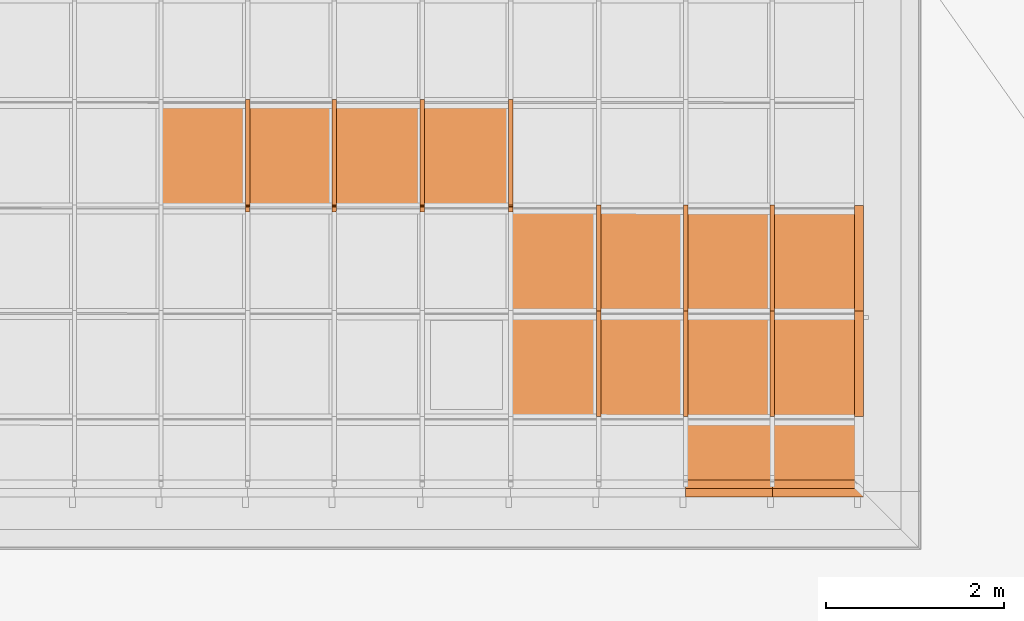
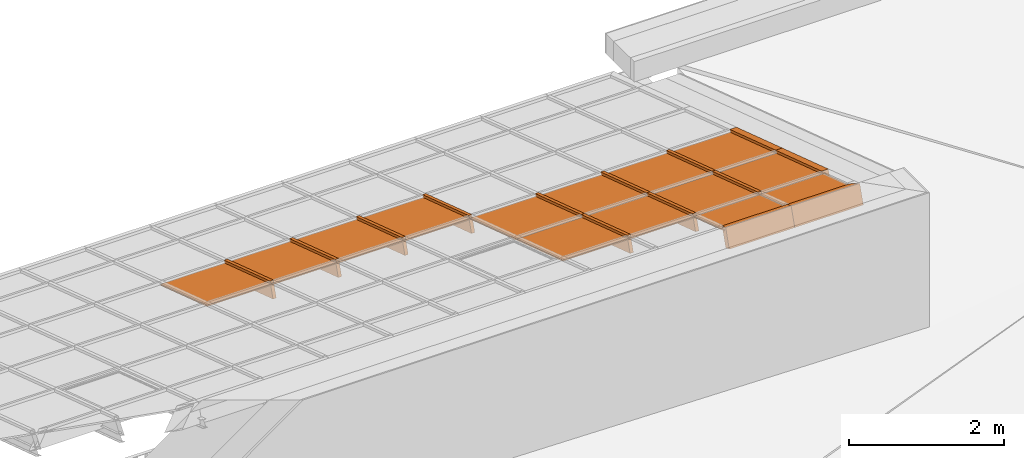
# One storey, part 38 of 47: 28 proxies, 1 element without a shape of its own.
"""IFC2X3 building model written with IfcOpenShell, lengths in millimetres."""

import ifcopenshell
import ifcopenshell.guid

model = None  # the IFC model being written
_history = None  # IfcOwnerHistory: only IFC2X3 demands one
_inside = {}  # id of a spatial element -> (the spatial element, [elements in it])
_under = {}  # id of a project, library or spatial element -> (it, [spatial elements below it])
_declared = {}  # id of a project -> (the project, [libraries it declares])
_typed = {}  # id of a type object -> (the type object, [elements of that type])
_made_of = {}  # id of a material, layer set ... -> (it, [elements and type objects made of it])


def new_model(schema):
    """Start an empty IFC model of exactly this schema.

    Asked for "IFC4X3", IfcOpenShell would pick the latest addendum, in which some entities
    have other attributes; the version numbers below select the first issue.
    IFC2X3 requires an IfcOwnerHistory on every rooted entity: one is made here for all.
    """
    global model, _history
    if schema == "IFC4X3":
        model = ifcopenshell.file(schema_version=(4, 3, 0, 0))
    else:
        model = ifcopenshell.file(schema=schema)
    _inside.clear()
    _under.clear()
    _declared.clear()
    _typed.clear()
    _made_of.clear()
    _history = None
    if model.schema == "IFC2X3":
        org = make("IfcOrganization", Name="unknown")
        user = make(
            "IfcPersonAndOrganization",
            ThePerson=make("IfcPerson", FamilyName="unknown"),
            TheOrganization=org,
        )
        app = make(
            "IfcApplication",
            ApplicationDeveloper=org,
            Version="unknown",
            ApplicationFullName="unknown",
            ApplicationIdentifier="unknown",
        )
        _history = make(
            "IfcOwnerHistory",
            OwningUser=user,
            OwningApplication=app,
            ChangeAction="ADDED",
            CreationDate=0,
        )
    return model


def make(cls, **values):
    """One entity of the class cls with the attributes given. An attribute that is None is left unset."""
    return model.create_entity(
        cls, **{name: value for name, value in values.items() if value is not None}
    )


def entity(cls, *values):
    """Any entity or typed value of the class cls, its attributes in the order of the schema. None: left unset."""
    e = model.create_entity(cls)
    for i, value in enumerate(values):
        if value is not None:
            e[i] = value
    return e


def rooted(cls, **values):
    """An entity with a GlobalId (a new one), such as an element, a storey or a relation."""
    return make(cls, GlobalId=ifcopenshell.guid.new(), OwnerHistory=_history, **values)


def si_unit(unit_type, name, prefix=None):
    """IfcSIUnit, for example si_unit("LENGTHUNIT", "METRE", prefix="MILLI")."""
    return make("IfcSIUnit", UnitType=unit_type, Prefix=prefix, Name=name)


def converted_unit(unit_type, name, factor, base, dimensions=None, offset=None):
    """IfcConversionBasedUnit, such as the inch: factor (a typed value) times the base unit."""
    return make(
        "IfcConversionBasedUnit"
        if offset is None
        else "IfcConversionBasedUnitWithOffset",
        ConversionOffset=offset,
        Dimensions=None
        if dimensions is None
        else entity("IfcDimensionalExponents", *dimensions),
        UnitType=unit_type,
        Name=name,
        ConversionFactor=make(
            "IfcMeasureWithUnit", ValueComponent=factor, UnitComponent=base
        ),
    )


def derived_unit(unit_type, elements):
    """IfcDerivedUnit: a product of units, each with its exponent."""
    return make(
        "IfcDerivedUnit",
        Elements=[
            make("IfcDerivedUnitElement", Unit=unit, Exponent=power)
            for unit, power in elements
        ],
        UnitType=unit_type,
    )


def money_unit(currency):
    """IfcMonetaryUnit."""
    return make("IfcMonetaryUnit", Currency=currency)


def assignment(units):
    """IfcUnitAssignment: the units of a project."""
    return None if units is None else make("IfcUnitAssignment", Units=units)


def point(xyz):
    """IfcCartesianPoint."""
    return None if xyz is None else make("IfcCartesianPoint", Coordinates=xyz)


def direction(xyz):
    """IfcDirection."""
    return None if xyz is None else make("IfcDirection", DirectionRatios=xyz)


def frame(location, z_axis=None, x_axis=None):
    """IfcAxis2Placement3D, a coordinate frame: its origin and axes. An axis left out is left unset."""
    return make(
        "IfcAxis2Placement3D",
        Location=point(location),
        Axis=direction(z_axis),
        RefDirection=direction(x_axis),
    )


def origin_with_axes():
    """The frame at (0, 0, 0) with the z axis (0, 0, 1) and the x axis (1, 0, 0) written out."""
    return frame((0.0, 0.0, 0.0), z_axis=(0.0, 0.0, 1.0), x_axis=(1.0, 0.0, 0.0))


def place(relative_to, where):
    """IfcLocalPlacement: puts the frame where relative to a parent placement (None: the world)."""
    return make(
        "IfcLocalPlacement", PlacementRelTo=relative_to, RelativePlacement=where
    )


def context(
    kind, dimensions, precision=None, world=None, true_north=None, identifier=None
):
    """IfcGeometricRepresentationContext, for example the 3D "Model" context."""
    return make(
        "IfcGeometricRepresentationContext",
        ContextIdentifier=identifier,
        ContextType=kind,
        CoordinateSpaceDimension=dimensions,
        Precision=precision,
        WorldCoordinateSystem=world,
        TrueNorth=true_north,
    )


def subcontext(parent, identifier, kind, view, scale=None):
    """IfcGeometricRepresentationSubContext, for example "Body" below "Model"."""
    return make(
        "IfcGeometricRepresentationSubContext",
        ContextIdentifier=identifier,
        ContextType=kind,
        ParentContext=parent,
        TargetScale=scale,
        TargetView=view,
    )


def project(units=None, contexts=None):
    """IfcProject with its units and contexts."""
    return rooted(
        "IfcProject",
        Name="project",
        RepresentationContexts=contexts,
        UnitsInContext=assignment(units),
    )


def spatial(cls, under=None, at=None, **own):
    """A site, building, storey or space (cls), placed at a placement, below another one or the project."""
    s = rooted(cls, ObjectPlacement=at, **own)
    if under is not None:
        _under.setdefault(under.id(), (under, []))[1].append(s)
    return s


def polyline(points):
    """IfcPolyline through the points."""
    return make("IfcPolyline", Points=[point(p) for p in points])


def outline(outer, holes=None, kind="AREA"):
    """IfcArbitraryClosedProfileDef: a profile drawn as a closed curve; with holes, ...WithVoids."""
    if holes is None:
        return make("IfcArbitraryClosedProfileDef", ProfileType=kind, OuterCurve=outer)
    return make(
        "IfcArbitraryProfileDefWithVoids",
        ProfileType=kind,
        OuterCurve=outer,
        InnerCurves=holes,
    )


def extrude(swept, where, along, depth):
    """IfcExtrudedAreaSolid: the profile swept, set in the frame where, extruded along a direction by depth."""
    return make(
        "IfcExtrudedAreaSolid",
        SweptArea=swept,
        Position=where,
        ExtrudedDirection=direction(along),
        Depth=depth,
    )


def clip(a, b, op="DIFFERENCE"):
    """IfcBooleanClippingResult: the solid a cut by the half space b."""
    return make(
        "IfcBooleanClippingResult", Operator=op, FirstOperand=a, SecondOperand=b
    )


def halfspace(plane, agree):
    """IfcHalfSpaceSolid: all space on one side of the plane z = 0 of the frame plane."""
    return make(
        "IfcHalfSpaceSolid",
        BaseSurface=make("IfcPlane", Position=plane),
        AgreementFlag=agree,
    )


def shape(context_of_items, identifier, shape_type, items):
    """IfcShapeRepresentation: the items that make up one representation, for example the "Body"."""
    return make(
        "IfcShapeRepresentation",
        ContextOfItems=context_of_items,
        RepresentationIdentifier=identifier,
        RepresentationType=shape_type,
        Items=items,
    )


def material(Name=None, Category=None):
    """IfcMaterial."""
    return make("IfcMaterial", Name=Name, Category=Category)


def material_list(materials):
    """IfcMaterialList."""
    return make("IfcMaterialList", Materials=materials)


def made_of(thing, what):
    """Note that an element or type object is made of a material, layer set ...; save() writes the relation."""
    if what is not None:
        _made_of.setdefault(what.id(), (what, []))[1].append(thing)
    return thing


def type_object(cls, material=None, **own):
    """A type object (cls), such as IfcWallType, which elements share."""
    return made_of(rooted(cls, **own), material)


def element(
    cls,
    number,
    at=None,
    inside=None,
    cuts=None,
    type_object=None,
    material=None,
    context=None,
    identifier="Body",
    shape_type=None,
    held_by="IfcProductDefinitionShape",
    body=None,
    shapes=None,
    **own,
):
    """One element of the class cls, such as IfcWall. Its Tag is "e" and its number.

    at: its placement. inside: the storey or other place that contains it. cuts: it is an
    opening in that element (IfcRelVoidsElement). A single representation is given by context,
    identifier, shape_type and body (its items); several are given by shapes. held_by: the class
    of the entity that holds the representations. save() writes the other relations.
    """
    e = rooted(cls, Tag="e%d" % number, ObjectPlacement=at, **own)
    if body is not None:
        shapes = [shape(context, identifier, shape_type, body)]
    if shapes is not None:
        e.Representation = make(held_by, Representations=shapes)
    if inside is not None:
        _inside.setdefault(inside.id(), (inside, []))[1].append(e)
    if cuts is not None:
        rooted(
            "IfcRelVoidsElement", RelatingBuildingElement=cuts, RelatedOpeningElement=e
        )
    if type_object is not None:
        _typed.setdefault(type_object.id(), (type_object, []))[1].append(e)
    return made_of(e, material)


def aggregate(whole, parts):
    """IfcRelAggregates: a whole, such as a stair, and the parts it consists of."""
    return rooted("IfcRelAggregates", RelatingObject=whole, RelatedObjects=parts)


def save(model, path):
    """Write the relations noted so far, then the file.

    IfcRelAggregates (storeys below a building ...), IfcRelContainedInSpatialStructure (elements
    in a storey), IfcRelDefinesByType, IfcRelAssociatesMaterial and IfcRelDeclares: one each for
    every whole, place, type object, material and project.
    """
    for whole, parts in _under.values():
        aggregate(whole, parts)
    for where, things in _inside.values():
        rooted(
            "IfcRelContainedInSpatialStructure",
            RelatedElements=things,
            RelatingStructure=where,
        )
    for kind, things in _typed.values():
        rooted("IfcRelDefinesByType", RelatedObjects=things, RelatingType=kind)
    for what, things in _made_of.values():
        rooted("IfcRelAssociatesMaterial", RelatedObjects=things, RelatingMaterial=what)
    for by, libraries in _declared.values():
        rooted("IfcRelDeclares", RelatingContext=by, RelatedDefinitions=libraries)
    model.write(path)


model = new_model("IFC2X3")

# Units and contexts
model_context = context("Model", 3, precision=1e-05, world=origin_with_axes(), true_north=direction((0.0, 1.0)))
body_context = subcontext(model_context, "Body", "Model", "MODEL_VIEW")
ifc_project = project(units=[si_unit("LENGTHUNIT", "METRE", prefix="MILLI"), si_unit("AREAUNIT", "SQUARE_METRE"), si_unit("VOLUMEUNIT", "CUBIC_METRE"), converted_unit("PLANEANGLEUNIT", "DEGREE", entity("IfcPlaneAngleMeasure", 0.0174532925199), si_unit("PLANEANGLEUNIT", "RADIAN"), dimensions=[0, 0, 0, 0, 0, 0, 0]), si_unit("SOLIDANGLEUNIT", "STERADIAN"), money_unit("EUR"), converted_unit("TIMEUNIT", "Year", entity("IfcTimeMeasure", 31556926.0), si_unit("TIMEUNIT", "SECOND"), dimensions=[0, 0, 1, 0, 0, 0, 0]), si_unit("MASSUNIT", "GRAM", prefix="KILO"), si_unit("THERMODYNAMICTEMPERATUREUNIT", "DEGREE_CELSIUS"), si_unit("LUMINOUSINTENSITYUNIT", "LUMEN"), si_unit("ENERGYUNIT", "JOULE", prefix="MEGA"), derived_unit("THERMALCONDUCTANCEUNIT", [(si_unit("POWERUNIT", "WATT"), 1), (si_unit("LENGTHUNIT", "METRE"), -1), (si_unit("THERMODYNAMICTEMPERATUREUNIT", "KELVIN"), -1)]), derived_unit("SPECIFICHEATCAPACITYUNIT", [(si_unit("ENERGYUNIT", "JOULE"), 1), (si_unit("MASSUNIT", "GRAM", prefix="KILO"), -1), (si_unit("THERMODYNAMICTEMPERATUREUNIT", "KELVIN"), -1)]), derived_unit("MASSDENSITYUNIT", [(si_unit("MASSUNIT", "GRAM", prefix="KILO"), 1), (si_unit("VOLUMEUNIT", "CUBIC_METRE"), -1)])], contexts=[model_context])

# Site, building, storey
site_placement = place(None, origin_with_axes())
site = spatial("IfcSite", under=ifc_project, at=site_placement, Name="Site", CompositionType="ELEMENT")
building_placement = place(site_placement, origin_with_axes())
building = spatial("IfcBuilding", under=site, at=building_placement, Name="Building", CompositionType="ELEMENT")
storey_placement = place(building_placement, frame((0.0, 0.0, 6000.0), z_axis=(0.0, 0.0, 1.0), x_axis=(1.0, 0.0, 0.0)))
storey = spatial("IfcBuildingStorey", under=building, at=storey_placement, Name="KATUSEPLAAN", CompositionType="ELEMENT", Elevation=6000.0)

# Curtain wall, proxies
curtain_wall_type = type_object("IfcCurtainWallType", Name="KK-2", PredefinedType="NOTDEFINED")
curtain_wall_placement = place(storey_placement, frame((71638.1505463, 41358.6055567, 722.550081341), z_axis=(0.0, 0.0, 1.0), x_axis=(1.0, 0.0, 0.0)))
curtain_wall = element("IfcCurtainWall", 1, at=curtain_wall_placement, inside=storey, type_object=curtain_wall_type, Name="Talveaja klaaskatus")
ifc_material_1 = material(Name="Klaas")
building_element_proxy_type_1 = type_object("IfcBuildingElementProxyType", Name="Panel-Dist-144", PredefinedType="NOTDEFINED")
proxy_1_placement = place(curtain_wall_placement, frame((14729.9937576, 2253.72911431, 1224.98126514), z_axis=(0.0, 0.0, 1.0), x_axis=(-0.999995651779, 0.00294896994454, 0.0)))
proxy_1 = element("IfcBuildingElementProxy", 2, at=proxy_1_placement, type_object=building_element_proxy_type_1, material=ifc_material_1, Name="Klaas;  Objekti nimi: Built-in CW Panel", context=body_context, shape_type="SweptSolid", body=[
    extrude(outline(polyline([(486.233087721, -631.364698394), (486.247105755, -626.364719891), (491.247084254, -626.37871911), (494.749052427, 623.616376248), (489.749073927, 623.630375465), (489.763073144, 628.630353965), (-486.233095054, 631.364698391), (-486.247094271, 626.364719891), (-491.247091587, 626.378719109), (-494.749059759, -623.616376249), (-489.74908126, -623.630375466), (-489.763080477, -628.630353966), (486.233087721, -631.364698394)])), frame((0.0, -3.12191252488, 9.50019274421), z_axis=(0.0, 0.312191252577, -0.950019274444), x_axis=(1.0, 0.0, 0.0)), (0.0, 0.0, 1.0), 20.0000000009),
])
building_element_proxy_type_2 = type_object("IfcBuildingElementProxyType", Name="Panel-Main-207", PredefinedType="NOTDEFINED")
proxy_2_placement = place(curtain_wall_placement, frame((15704.4933446, -4.5137158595, 1966.12772959), z_axis=(0.0, 0.0, 1.0), x_axis=(-0.999995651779, 0.0029489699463, 0.0)))
proxy_2 = element("IfcBuildingElementProxy", 3, at=proxy_2_placement, type_object=building_element_proxy_type_2, material=ifc_material_1, Name="Klaas;  Objekti nimi: Built-in CW Panel", context=body_context, shape_type="SweptSolid", body=[
    extrude(outline(polyline([(490.647769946, -304.883100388), (492.903773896, 500.374719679), (487.903793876, 500.388724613), (487.91779881, 505.388704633), (-485.078383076, 508.114638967), (-485.09238801, 503.114658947), (-465.092467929, 503.058624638), (-467.29243757, -282.199275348), (485.703824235, -284.869175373), (485.647789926, -304.869095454), (490.647769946, -304.883100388)])), frame((0.0, -3.12191252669, 9.50019274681), z_axis=(0.0, 0.312191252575, -0.950019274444), x_axis=(1.0, 0.0, 0.0)), (0.0, 0.0, 1.0), 20.0000000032),
])
building_element_proxy_type_3 = type_object("IfcBuildingElementProxyType", Name="Panel-Main-155", PredefinedType="NOTDEFINED")
proxy_3_placement = place(curtain_wall_placement, frame((12769.4945884, 1066.76799597, 1616.93350878), z_axis=(0.0, 0.0, 1.0), x_axis=(-0.999995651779, 0.00294896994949, 0.0)))
proxy_3 = element("IfcBuildingElementProxy", 4, at=proxy_3_placement, type_object=building_element_proxy_type_3, material=ifc_material_1, Name="Klaas;  Objekti nimi: Built-in CW Panel", context=body_context, shape_type="SweptSolid", body=[
    extrude(outline(polyline([(494.73307187, -631.388511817), (494.747071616, -626.388532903), (499.747050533, -626.402532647), (503.249019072, 623.592554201), (498.249040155, 623.606553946), (498.2630399, 628.606551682), (-494.733059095, 631.388511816), (-494.74705884, 626.388532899), (-499.747037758, 626.402532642), (-503.249006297, -623.592554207), (-498.249046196, -623.60655395), (-498.263045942, -628.606532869), (494.73307187, -631.388511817)])), frame((0.0, -3.12191252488, 9.50019274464), z_axis=(0.0, 0.312191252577, -0.950019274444), x_axis=(1.0, 0.0, 0.0)), (0.0, 0.0, 1.0), 20.0000000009),
])
building_element_proxy_type_4 = type_object("IfcBuildingElementProxyType", Name="Panel-Main-113", PredefinedType="NOTDEFINED")
proxy_4_placement = place(curtain_wall_placement, frame((13753.9941712, 2254.00963179, 1225.83490266), z_axis=(0.0, 0.0, 1.0), x_axis=(-0.999995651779, 0.00294896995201, 0.0)))
proxy_4 = element("IfcBuildingElementProxy", 5, at=proxy_4_placement, type_object=building_element_proxy_type_4, material=ifc_material_1, Name="Klaas;  Objekti nimi: Built-in CW Panel", context=body_context, shape_type="SweptSolid", body=[
    extrude(outline(polyline([(486.233068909, -631.364698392), (486.247086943, -626.364701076), (491.247084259, -626.378719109), (494.749052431, 623.616357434), (489.749073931, 623.630375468), (489.763073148, 628.630353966), (-486.23309505, 631.364698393), (-486.247113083, 626.364719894), (-491.247091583, 626.378719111), (-494.749059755, -623.61635743), (-489.749081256, -623.630375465), (-489.763080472, -628.630353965), (486.233068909, -631.364698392)])), frame((0.0, -3.12191252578, 9.50019274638), z_axis=(0.0, 0.312191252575, -0.950019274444), x_axis=(1.0, 0.0, 0.0)), (0.0, 0.0, 1.0), 20.0000000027),
])
building_element_proxy_type_5 = type_object("IfcBuildingElementProxyType", Name="Panel-Main-143", PredefinedType="NOTDEFINED")
proxy_5_placement = place(curtain_wall_placement, frame((8827.49625898, 3442.9501803, 839.906226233), z_axis=(0.0, 0.0, 1.0), x_axis=(-0.999995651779, 0.00294896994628, 0.0)))
proxy_5 = element("IfcBuildingElementProxy", 6, at=proxy_5_placement, type_object=building_element_proxy_type_5, material=ifc_material_1, Name="Klaas;  Objekti nimi: Built-in CW Panel", context=body_context, shape_type="SweptSolid", body=[
    extrude(outline(polyline([(484.733112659, -631.360496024), (484.747111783, -626.360513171), (489.747075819, -626.374531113), (493.249058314, 623.620579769), (488.249075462, 623.634578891), (488.263093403, 628.634561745), (-484.733080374, 631.360496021), (-484.747098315, 626.360513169), (-489.747081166, 626.374512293), (-493.249044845, -623.620579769), (-488.249061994, -623.634578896), (-488.263079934, -628.634561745), (484.733112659, -631.360496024)])), frame((0.0, -3.12191252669, 9.50019274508), z_axis=(0.0, 0.312191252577, -0.950019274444), x_axis=(1.0, 0.0, 0.0)), (0.0, 0.0, 1.0), 20.0000000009),
])
building_element_proxy_type_6 = type_object("IfcBuildingElementProxyType", Name="Panel-Dist-175", PredefinedType="NOTDEFINED")
proxy_6_placement = place(curtain_wall_placement, frame((9800.49584663, 3442.67052507, 839.0552126), z_axis=(0.0, 0.0, 1.0), x_axis=(-0.999995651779, 0.00294896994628, 0.0)))
proxy_6 = element("IfcBuildingElementProxy", 7, at=proxy_6_placement, type_object=building_element_proxy_type_6, material=ifc_material_1, Name="Klaas;  Objekti nimi: Built-in CW Panel", context=body_context, shape_type="SweptSolid", body=[
    extrude(outline(polyline([(484.733112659, -631.360496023), (484.747111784, -626.360513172), (489.74707582, -626.374531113), (493.249058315, 623.620579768), (488.249075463, 623.634578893), (488.263093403, 628.634561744), (-484.733080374, 631.360496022), (-484.747098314, 626.36051317), (-489.747081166, 626.374512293), (-493.249044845, -623.620579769), (-488.249061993, -623.634578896), (-488.263079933, -628.634561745), (484.733112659, -631.360496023)])), frame((1.13686837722e-10, -3.12191252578, 9.50019274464), z_axis=(0.0, 0.312191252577, -0.950019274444), x_axis=(1.0, 0.0, 0.0)), (0.0, 0.0, 1.0), 20.0000000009),
])
building_element_proxy_type_7 = type_object("IfcBuildingElementProxyType", Name="Panel-Main-144", PredefinedType="NOTDEFINED")
proxy_7_placement = place(curtain_wall_placement, frame((10783.49543, 3442.38799568, 838.195452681), z_axis=(0.0, 0.0, 1.0), x_axis=(-0.999995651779, 0.00294896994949, 0.0)))
proxy_7 = element("IfcBuildingElementProxy", 8, at=proxy_7_placement, type_object=building_element_proxy_type_7, material=ifc_material_1, Name="Klaas;  Objekti nimi: Built-in CW Panel", context=body_context, shape_type="SweptSolid", body=[
    extrude(outline(polyline([(494.733053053, -631.388511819), (494.747071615, -626.388532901), (499.747050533, -626.402532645), (503.249019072, 623.592554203), (498.249040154, 623.60655395), (498.2630399, 628.606551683), (-494.733077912, 631.388511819), (-494.747077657, 626.3885329), (-499.747037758, 626.402532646), (-503.249025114, -623.592554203), (-498.249046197, -623.606553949), (-498.263045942, -628.606551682), (494.733053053, -631.388511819)])), frame((0.0, -3.12191252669, 9.50019274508), z_axis=(0.0, 0.312191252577, -0.950019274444), x_axis=(1.0, 0.0, 0.0)), (0.0, 0.0, 1.0), 20.0000000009),
])
building_element_proxy_type_8 = type_object("IfcBuildingElementProxyType", Name="Panel-Dist-176", PredefinedType="NOTDEFINED")
proxy_8_placement = place(curtain_wall_placement, frame((11776.4950092, 3442.10259214, 837.326946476), z_axis=(0.0, 0.0, 1.0), x_axis=(-0.999995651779, 0.00294896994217, 0.0)))
proxy_8 = element("IfcBuildingElementProxy", 9, at=proxy_8_placement, type_object=building_element_proxy_type_8, material=ifc_material_1, Name="Klaas;  Objekti nimi: Built-in CW Panel", context=body_context, shape_type="SweptSolid", body=[
    extrude(outline(polyline([(494.733053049, -631.388511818), (494.747071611, -626.3885329), (499.747050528, -626.402532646), (503.249019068, 623.592554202), (498.24904015, 623.606553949), (498.263039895, 628.606551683), (-494.733077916, 631.388511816), (-494.747077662, 626.388532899), (-499.747037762, 626.402532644), (-503.249025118, -623.592554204), (-498.249046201, -623.606553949), (-498.263045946, -628.606551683), (494.733053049, -631.388511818)])), frame((0.0, -3.12191252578, 9.50019274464), z_axis=(0.0, 0.312191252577, -0.950019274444), x_axis=(1.0, 0.0, 0.0)), (0.0, 0.0, 1.0), 20.0000000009),
])
building_element_proxy_type_9 = type_object("IfcBuildingElementProxyType", Name="Panel-Dist-155", PredefinedType="NOTDEFINED")
proxy_9_placement = place(curtain_wall_placement, frame((12769.4945884, 2254.29259229, 1226.69597452), z_axis=(0.0, 0.0, 1.0), x_axis=(-0.999995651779, 0.00294896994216, 0.0)))
proxy_9 = element("IfcBuildingElementProxy", 10, at=proxy_9_placement, type_object=building_element_proxy_type_9, material=ifc_material_1, Name="Klaas;  Objekti nimi: Built-in CW Panel", context=body_context, shape_type="SweptSolid", body=[
    extrude(outline(polyline([(494.733053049, -631.388511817), (494.747071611, -626.388532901), (499.747050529, -626.402532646), (503.249019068, 623.592554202), (498.249040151, 623.606553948), (498.263039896, 628.606551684), (-494.733077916, 631.388511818), (-494.747077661, 626.3885329), (-499.747037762, 626.402532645), (-503.249025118, -623.592554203), (-498.249046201, -623.606553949), (-498.263045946, -628.606551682), (494.733053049, -631.388511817)])), frame((1.13686837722e-10, -3.12191252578, 9.50019274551), z_axis=(0.0, 0.312191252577, -0.950019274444), x_axis=(1.0, 0.0, 0.0)), (0.0, 0.0, 1.0), 20.0000000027),
])
building_element_proxy_type_10 = type_object("IfcBuildingElementProxyType", Name="Panel-Main-114", PredefinedType="NOTDEFINED")
proxy_10_placement = place(curtain_wall_placement, frame((15704.4933446, 2253.44902796, 1224.12893957), z_axis=(0.0, 0.0, 1.0), x_axis=(-0.999995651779, 0.00294896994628, 0.0)))
proxy_10 = element("IfcBuildingElementProxy", 11, at=proxy_10_placement, type_object=building_element_proxy_type_10, material=ifc_material_1, Name="Klaas;  Objekti nimi: Built-in CW Panel", context=body_context, shape_type="SweptSolid", body=[
    extrude(outline(polyline([(484.733112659, -631.360496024), (484.747111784, -626.360513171), (489.747075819, -626.374531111), (493.249058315, 623.620579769), (488.249094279, 623.634578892), (488.263093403, 628.634561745), (-484.733080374, 631.360496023), (-484.747098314, 626.360513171), (-464.747166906, 626.304479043), (-468.249130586, -623.690613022), (-488.249061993, -623.634578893), (-488.263079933, -628.634561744), (484.733112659, -631.360496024)])), frame((0.0, -3.12191252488, 9.50019274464), z_axis=(0.0, 0.312191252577, -0.950019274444), x_axis=(1.0, 0.0, 0.0)), (0.0, 0.0, 1.0), 20.0000000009),
])
building_element_proxy_type_11 = type_object("IfcBuildingElementProxyType", Name="Panel-Main-153", PredefinedType="NOTDEFINED")
proxy_11_placement = place(curtain_wall_placement, frame((14729.9937576, 1066.20451799, 1615.2187994), z_axis=(0.0, 0.0, 1.0), x_axis=(-0.999995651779, 0.00294896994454, 0.0)))
proxy_11 = element("IfcBuildingElementProxy", 12, at=proxy_11_placement, type_object=building_element_proxy_type_11, material=ifc_material_1, Name="Klaas;  Objekti nimi: Built-in CW Panel", context=body_context, shape_type="SweptSolid", body=[
    extrude(outline(polyline([(486.233068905, -631.364698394), (486.247086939, -626.364701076), (491.247084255, -626.378719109), (494.749052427, 623.616357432), (489.749073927, 623.630375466), (489.763073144, 628.630353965), (-486.233095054, 631.364698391), (-486.247113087, 626.364719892), (-491.247091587, 626.378719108), (-494.749059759, -623.616357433), (-489.74908126, -623.630375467), (-489.763080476, -628.630353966), (486.233068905, -631.364698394)])), frame((0.0, -3.12191252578, 9.50019274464), z_axis=(0.0, 0.312191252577, -0.950019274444), x_axis=(1.0, 0.0, 0.0)), (0.0, 0.0, 1.0), 20.0000000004),
])
building_element_proxy_type_12 = type_object("IfcBuildingElementProxyType", Name="Panel-Main-154", PredefinedType="NOTDEFINED")
proxy_12_placement = place(curtain_wall_placement, frame((13753.9941712, 1066.48503547, 1616.07243692), z_axis=(0.0, 0.0, 1.0), x_axis=(-0.999995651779, 0.00294896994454, 0.0)))
proxy_12 = element("IfcBuildingElementProxy", 13, at=proxy_12_placement, type_object=building_element_proxy_type_12, material=ifc_material_1, Name="Klaas;  Objekti nimi: Built-in CW Panel", context=body_context, shape_type="SweptSolid", body=[
    extrude(outline(polyline([(486.233087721, -631.364698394), (486.247105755, -626.364719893), (491.247084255, -626.37871911), (494.749052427, 623.616376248), (489.749073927, 623.630375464), (489.763073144, 628.630353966), (-486.233095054, 631.364698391), (-486.247094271, 626.364719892), (-491.247091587, 626.378719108), (-494.749059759, -623.61637625), (-489.74908126, -623.630375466), (-489.763080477, -628.630353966), (486.233087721, -631.364698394)])), frame((1.70530256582e-10, -3.12191252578, 9.50019274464), z_axis=(0.0, 0.312191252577, -0.950019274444), x_axis=(1.0, 0.0, 0.0)), (0.0, 0.0, 1.0), 20.0000000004),
])
building_element_proxy_type_13 = type_object("IfcBuildingElementProxyType", Name="Panel-Main-152", PredefinedType="NOTDEFINED")
proxy_13_placement = place(curtain_wall_placement, frame((15704.4933446, 1065.92443164, 1614.36647382), z_axis=(0.0, 0.0, 1.0), x_axis=(-0.999995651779, 0.00294896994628, 0.0)))
proxy_13 = element("IfcBuildingElementProxy", 14, at=proxy_13_placement, type_object=building_element_proxy_type_13, material=ifc_material_1, Name="Klaas;  Objekti nimi: Built-in CW Panel", context=body_context, shape_type="SweptSolid", body=[
    extrude(outline(polyline([(484.733112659, -631.360496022), (484.747111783, -626.360513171), (489.747075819, -626.374531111), (493.249058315, 623.620579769), (488.249094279, 623.634578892), (488.263093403, 628.634561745), (-484.733080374, 631.360496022), (-484.747098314, 626.36051317), (-464.747166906, 626.304479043), (-468.249130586, -623.690613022), (-488.249061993, -623.634578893), (-488.263079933, -628.634561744), (484.733112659, -631.360496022)])), frame((0.0, -3.12191252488, 9.50019274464), z_axis=(0.0, 0.312191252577, -0.950019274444), x_axis=(1.0, 0.0, 0.0)), (0.0, 0.0, 1.0), 20.0000000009),
])
building_element_proxy_type_14 = type_object("IfcBuildingElementProxyType", Name="Panel-Main-208", PredefinedType="NOTDEFINED")
proxy_14_placement = place(curtain_wall_placement, frame((14729.9937576, -4.23362950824, 1966.98005516), z_axis=(0.0, 0.0, 1.0), x_axis=(-0.999995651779, 0.00294896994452, 0.0)))
proxy_14 = element("IfcBuildingElementProxy", 15, at=proxy_14_placement, type_object=building_element_proxy_type_14, material=ifc_material_1, Name="Klaas;  Objekti nimi: Built-in CW Panel", context=body_context, shape_type="SweptSolid", body=[
    extrude(outline(polyline([(492.147770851, -304.887314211), (494.403768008, 500.370517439), (489.403779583, 500.384507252), (489.417784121, 505.384495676), (-486.578389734, 508.118841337), (-486.592394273, 503.118852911), (-491.592367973, 503.132872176), (-493.84836513, -302.124944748), (-488.84839143, -302.138964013), (-488.79235855, -282.139025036), (487.203815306, -284.873370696), (487.147782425, -304.873294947), (492.147770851, -304.887314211)])), frame((0.0, -3.12191252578, 9.50019274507), z_axis=(0.0, 0.312191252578, -0.950019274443), x_axis=(1.0, 0.0, 0.0)), (0.0, 0.0, 1.0), 20.0000000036),
])
ifc_material_2 = material(Name="Alumiinium (1)")
ifc_material_list = material_list([ifc_material_2, ifc_material_2])
building_element_proxy_type_15 = type_object("IfcBuildingElementProxyType", Name="Frame-Mll-606", PredefinedType="NOTDEFINED")
proxy_15_placement = place(curtain_wall_placement, frame((14241.9939644, 2847.6316712, 1030.28931678), z_axis=(0.0, -0.950019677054, 0.312190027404), x_axis=(-0.999999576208, 0.000287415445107, 0.000874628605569)))
proxy_15 = element("IfcBuildingElementProxy", 16, at=proxy_15_placement, type_object=building_element_proxy_type_15, material=ifc_material_list, Name="Alumiinium (1);  Objekti nimi: Frame 22", context=body_context, shape_type="SweptSolid", body=[
    extrude(outline(polyline([(25.0091958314, 9.97697969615), (25.1841179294, 199.976899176), (-24.8158608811, 200.022931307), (-24.9907829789, 10.0230118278), (25.0091958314, 9.97697969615)])), frame((0.0, 0.0, -1.81898940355e-09), z_axis=(0.0, 0.0, 1.0), x_axis=(0.999999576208, 0.000920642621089, 0.0)), (0.0, 0.0, 1.0), 1250.0),
    extrude(outline(polyline([(-25.0091958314, -9.9769796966), (-25.0460215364, -49.9769627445), (24.9539572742, -50.0229948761), (24.9907829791, -10.0230118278), (-25.0091958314, -9.9769796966)])), frame((0.0, 0.0, -1.81898940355e-09), z_axis=(0.0, 0.0, 1.0), x_axis=(0.999999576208, 0.000920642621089, 0.0)), (0.0, 0.0, 1.0), 1250.0),
])
building_element_proxy_type_16 = type_object("IfcBuildingElementProxyType", Name="Frame-Mll-074", PredefinedType="NOTDEFINED")
proxy_16_placement = place(curtain_wall_placement, frame((15217.9935507, 1659.82655741, 1419.67321351), z_axis=(0.0, -0.950019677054, 0.312190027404), x_axis=(-0.999999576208, 0.000287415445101, 0.000874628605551)))
proxy_16 = element("IfcBuildingElementProxy", 17, at=proxy_16_placement, type_object=building_element_proxy_type_16, material=ifc_material_list, Name="Alumiinium (1);  Objekti nimi: Frame 22", context=body_context, shape_type="SweptSolid", body=[
    extrude(outline(polyline([(25.0091958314, 9.97697969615), (25.1841179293, 199.976899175), (-24.8158608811, 200.022931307), (-24.9907829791, 10.0230118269), (25.0091958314, 9.97697969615)])), frame((0.0, 0.0, 0.0), z_axis=(0.0, 0.0, 1.0), x_axis=(0.999999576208, 0.00092064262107, 0.0)), (0.0, 0.0, 1.0), 1250.0),
    extrude(outline(polyline([(-25.0091958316, -9.97697969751), (-25.0460215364, -49.9769627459), (24.9539572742, -50.0229948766), (24.9907829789, -10.0230118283), (-25.0091958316, -9.97697969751)])), frame((0.0, -4.54747350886e-10, -9.09494701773e-10), z_axis=(0.0, 0.0, 1.0), x_axis=(0.999999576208, 0.00092064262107, 0.0)), (0.0, 0.0, 1.0), 1250.0),
])
building_element_proxy_type_17 = type_object("IfcBuildingElementProxyType", Name="Frame-Mll-607", PredefinedType="NOTDEFINED")
proxy_17_placement = place(curtain_wall_placement, frame((15217.9935507, 2847.35115373, 1029.43567926), z_axis=(0.0, -0.950019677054, 0.312190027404), x_axis=(-0.999999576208, 0.000287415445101, 0.000874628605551)))
proxy_17 = element("IfcBuildingElementProxy", 18, at=proxy_17_placement, type_object=building_element_proxy_type_17, material=ifc_material_list, Name="Alumiinium (1);  Objekti nimi: Frame 22", context=body_context, shape_type="SweptSolid", body=[
    extrude(outline(polyline([(25.0091958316, 9.9769796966), (25.1841179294, 199.976899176), (-24.8158608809, 200.022931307), (-24.9907829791, 10.0230118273), (25.0091958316, 9.9769796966)])), frame((0.0, 0.0, 0.0), z_axis=(0.0, 0.0, 1.0), x_axis=(0.999999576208, 0.00092064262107, 0.0)), (0.0, 0.0, 1.0), 1250.0),
    extrude(outline(polyline([(-25.0091958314, -9.9769796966), (-25.0460215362, -49.9769627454), (24.9539572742, -50.0229948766), (24.9907829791, -10.0230118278), (-25.0091958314, -9.9769796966)])), frame((0.0, 0.0, 0.0), z_axis=(0.0, 0.0, 1.0), x_axis=(0.999999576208, 0.00092064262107, 0.0)), (0.0, 0.0, 1.0), 1250.0),
])
building_element_proxy_type_18 = type_object("IfcBuildingElementProxyType", Name="Frame-Mll-256", PredefinedType="NOTDEFINED")
proxy_18_placement = place(curtain_wall_placement, frame((9313.99605281, 4036.57265084, 644.361952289), z_axis=(0.0, -0.950019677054, 0.312190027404), x_axis=(-0.999999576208, 0.000287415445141, 0.000874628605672)))
proxy_18 = element("IfcBuildingElementProxy", 19, at=proxy_18_placement, type_object=building_element_proxy_type_18, material=ifc_material_list, Name="Alumiinium (1);  Objekti nimi: Frame 22", context=body_context, shape_type="SweptSolid", body=[
    extrude(outline(polyline([(25.0091958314, 9.9769796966), (25.1841179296, 199.976899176), (-24.8158608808, 200.022931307), (-24.9907829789, 10.0230118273), (25.0091958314, 9.9769796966)])), frame((0.0, -4.54747350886e-10, -1.81898940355e-09), z_axis=(0.0, 0.0, 1.0), x_axis=(0.999999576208, 0.000920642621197, 0.0)), (0.0, 0.0, 1.0), 1250.0),
    extrude(outline(polyline([(-25.0091958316, -9.97697969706), (-25.0460215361, -49.9769627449), (24.9539572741, -50.0229948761), (24.9907829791, -10.0230118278), (-25.0091958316, -9.97697969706)])), frame((0.0, 0.0, -9.09494701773e-10), z_axis=(0.0, 0.0, 1.0), x_axis=(0.999999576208, 0.000920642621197, 0.0)), (0.0, 0.0, 1.0), 1250.0),
])
building_element_proxy_type_19 = type_object("IfcBuildingElementProxyType", Name="Frame-Mll-257", PredefinedType="NOTDEFINED")
proxy_19_placement = place(curtain_wall_placement, frame((10286.9956405, 4036.29299561, 643.510938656), z_axis=(0.0, -0.950019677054, 0.312190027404), x_axis=(-0.999999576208, 0.000287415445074, 0.000874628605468)))
proxy_19 = element("IfcBuildingElementProxy", 20, at=proxy_19_placement, type_object=building_element_proxy_type_19, material=ifc_material_list, Name="Alumiinium (1);  Objekti nimi: Frame 22", context=body_context, shape_type="SweptSolid", body=[
    extrude(outline(polyline([(25.0091958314, 9.9769796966), (25.1841179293, 199.976899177), (-24.8158608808, 200.022931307), (-24.990782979, 10.0230118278), (25.0091958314, 9.9769796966)])), frame((0.0, 0.0, 0.0), z_axis=(0.0, 0.0, 1.0), x_axis=(0.999999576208, 0.000920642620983, 0.0)), (0.0, 0.0, 1.0), 1250.0),
    extrude(outline(polyline([(-25.0091958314, -9.97697969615), (-25.0460215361, -49.9769627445), (24.9539572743, -50.0229948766), (24.9907829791, -10.0230118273), (-25.0091958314, -9.97697969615)])), frame((0.0, 0.0, 0.0), z_axis=(0.0, 0.0, 1.0), x_axis=(0.999999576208, 0.000920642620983, 0.0)), (0.0, 0.0, 1.0), 1250.0),
])
building_element_proxy_type_20 = type_object("IfcBuildingElementProxyType", Name="Frame-Mll-258", PredefinedType="NOTDEFINED")
proxy_20_placement = place(curtain_wall_placement, frame((11279.9952196, 4036.00759207, 642.642432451), z_axis=(0.0, -0.950019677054, 0.312190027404), x_axis=(-0.999999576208, 0.000287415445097, 0.000874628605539)))
proxy_20 = element("IfcBuildingElementProxy", 21, at=proxy_20_placement, type_object=building_element_proxy_type_20, material=ifc_material_list, Name="Alumiinium (1);  Objekti nimi: Frame 22", context=body_context, shape_type="SweptSolid", body=[
    extrude(outline(polyline([(25.0091958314, 9.9769796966), (25.1841179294, 199.976899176), (-24.8158608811, 200.022931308), (-24.990782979, 10.0230118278), (25.0091958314, 9.9769796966)])), frame((0.0, 0.0, 0.0), z_axis=(0.0, 0.0, 1.0), x_axis=(0.999999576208, 0.000920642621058, 0.0)), (0.0, 0.0, 1.0), 1250.0),
    extrude(outline(polyline([(-25.0091958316, -9.9769796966), (-25.0460215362, -49.9769627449), (24.9539572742, -50.0229948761), (24.9907829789, -10.0230118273), (-25.0091958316, -9.9769796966)])), frame((0.0, 0.0, 0.0), z_axis=(0.0, 0.0, 1.0), x_axis=(0.999999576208, 0.000920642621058, 0.0)), (0.0, 0.0, 1.0), 1250.0),
])
building_element_proxy_type_21 = type_object("IfcBuildingElementProxyType", Name="Frame-Mll-259", PredefinedType="NOTDEFINED")
proxy_21_placement = place(curtain_wall_placement, frame((12272.9947988, 4035.72218854, 641.773926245), z_axis=(0.0, -0.950019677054, 0.312190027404), x_axis=(-0.999999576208, 0.000287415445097, 0.000874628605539)))
proxy_21 = element("IfcBuildingElementProxy", 22, at=proxy_21_placement, type_object=building_element_proxy_type_21, material=ifc_material_list, Name="Alumiinium (1);  Objekti nimi: Frame 22", context=body_context, shape_type="SweptSolid", body=[
    extrude(outline(polyline([(25.0091958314, 9.9769796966), (25.1841179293, 199.976899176), (-24.8158608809, 200.022931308), (-24.9907829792, 10.0230118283), (25.0091958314, 9.9769796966)])), frame((0.0, 0.0, 0.0), z_axis=(0.0, 0.0, 1.0), x_axis=(0.999999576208, 0.000920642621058, 0.0)), (0.0, 0.0, 1.0), 1250.0),
    extrude(outline(polyline([(-25.0091958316, -9.9769796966), (-25.0460215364, -49.9769627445), (24.9539572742, -50.0229948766), (24.9907829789, -10.0230118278), (-25.0091958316, -9.9769796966)])), frame((0.0, 0.0, 0.0), z_axis=(0.0, 0.0, 1.0), x_axis=(0.999999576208, 0.000920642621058, 0.0)), (0.0, 0.0, 1.0), 1250.0),
])
building_element_proxy_type_22 = type_object("IfcBuildingElementProxyType", Name="Frame-Mll-605", PredefinedType="NOTDEFINED")
proxy_22_placement = place(curtain_wall_placement, frame((13265.994378, 2847.91218869, 1031.14295429), z_axis=(0.0, -0.950019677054, 0.312190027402), x_axis=(-0.999999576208, 0.000287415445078, 0.000874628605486)))
proxy_22 = element("IfcBuildingElementProxy", 23, at=proxy_22_placement, type_object=building_element_proxy_type_22, material=ifc_material_list, Name="Alumiinium (1);  Objekti nimi: Frame 22", context=body_context, shape_type="SweptSolid", body=[
    extrude(outline(polyline([(25.0091958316, 9.9769796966), (25.1841179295, 199.976899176), (-24.8158608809, 200.022931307), (-24.9907829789, 10.0230118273), (25.0091958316, 9.9769796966)])), frame((0.0, 0.0, -1.81898940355e-09), z_axis=(0.0, 0.0, 1.0), x_axis=(0.999999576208, 0.000920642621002, 0.0)), (0.0, 0.0, 1.0), 1250.00000001),
    extrude(outline(polyline([(-25.0091958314, -9.97697969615), (-25.0460215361, -49.9769627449), (24.9539572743, -50.0229948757), (24.990782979, -10.0230118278), (-25.0091958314, -9.97697969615)])), frame((0.0, 0.0, -1.81898940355e-09), z_axis=(0.0, 0.0, 1.0), x_axis=(0.999999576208, 0.000920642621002, 0.0)), (0.0, 0.0, 1.0), 1250.00000001),
])
building_element_proxy_type_23 = type_object("IfcBuildingElementProxyType", Name="Frame-Mll-072", PredefinedType="NOTDEFINED")
proxy_23_placement = place(curtain_wall_placement, frame((13265.994378, 1660.38759236, 1421.38048855), z_axis=(0.0, -0.950019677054, 0.312190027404), x_axis=(-0.999999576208, 0.00028741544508, 0.000874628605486)))
proxy_23 = element("IfcBuildingElementProxy", 24, at=proxy_23_placement, type_object=building_element_proxy_type_23, material=ifc_material_list, Name="Alumiinium (1);  Objekti nimi: Frame 22", context=body_context, shape_type="SweptSolid", body=[
    extrude(outline(polyline([(25.0091958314, 9.97697969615), (25.1841179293, 199.976899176), (-24.8158608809, 200.022931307), (-24.9907829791, 10.0230118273), (25.0091958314, 9.97697969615)])), frame((0.0, 0.0, -9.09494701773e-10), z_axis=(0.0, 0.0, 1.0), x_axis=(0.999999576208, 0.000920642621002, 0.0)), (0.0, 0.0, 1.0), 1250.0),
    extrude(outline(polyline([(-25.0091958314, -9.97697969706), (-25.0460215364, -49.9769627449), (24.9539572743, -50.0229948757), (24.9907829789, -10.0230118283), (-25.0091958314, -9.97697969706)])), frame((0.0, 4.54747350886e-10, -1.81898940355e-09), z_axis=(0.0, 0.0, 1.0), x_axis=(0.999999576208, 0.000920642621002, 0.0)), (0.0, 0.0, 1.0), 1250.0),
])
building_element_proxy_type_24 = type_object("IfcBuildingElementProxyType", Name="Frame-Bnd-636", PredefinedType="NOTDEFINED")
proxy_24_placement = place(curtain_wall_placement, frame((16190.9931384, 2847.0714985, 1028.58466562), z_axis=(0.0, -0.950019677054, 0.312190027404), x_axis=(-0.999999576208, 0.000287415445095, 0.000874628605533)))
proxy_24 = element("IfcBuildingElementProxy", 25, at=proxy_24_placement, type_object=building_element_proxy_type_24, material=ifc_material_2, Name="Alumiinium (1);  Objekti nimi: Built-in Frame", context=body_context, shape_type="SweptSolid", body=[
    extrude(outline(polyline([(20.0091979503, 9.9815829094), (50.0091852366, 9.95396363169), (50.2301394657, 249.953861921), (-49.7698181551, 250.045926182), (-50.0460109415, -49.9539466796), (49.9539466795, -50.0460109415), (49.9907723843, -10.0460278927), (19.990785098, -10.0184086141), (20.0091979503, 9.9815829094)])), frame((0.0, 0.0, -9.09494701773e-10), z_axis=(0.0, 0.0, 1.0), x_axis=(0.999999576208, 0.000920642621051, 0.0)), (0.0, 0.0, 1.0), 1250.0),
])
building_element_proxy_type_25 = type_object("IfcBuildingElementProxyType", Name="Frame-Bnd-637", PredefinedType="NOTDEFINED")
proxy_25_placement = place(curtain_wall_placement, frame((16190.9931384, 1659.54690219, 1418.82219988), z_axis=(0.0, -0.950019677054, 0.312190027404), x_axis=(-0.999999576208, 0.000287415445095, 0.000874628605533)))
proxy_25 = element("IfcBuildingElementProxy", 26, at=proxy_25_placement, type_object=building_element_proxy_type_25, material=ifc_material_2, Name="Alumiinium (1);  Objekti nimi: Built-in Frame", context=body_context, shape_type="SweptSolid", body=[
    extrude(outline(polyline([(20.0091979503, 9.98158290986), (50.0091852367, 9.95396363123), (50.2301394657, 249.953861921), (-49.7698181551, 250.045926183), (-50.0460109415, -49.9539466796), (49.9539466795, -50.0460109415), (49.9907723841, -10.0460278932), (19.9907850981, -10.0184086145), (20.0091979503, 9.98158290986)])), frame((0.0, 0.0, -1.81898940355e-09), z_axis=(0.0, 0.0, 1.0), x_axis=(0.999999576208, 0.000920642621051, 0.0)), (0.0, 0.0, 1.0), 1250.0),
])
building_element_proxy_type_26 = type_object("IfcBuildingElementProxyType", Name="Frame-Mll-073", PredefinedType="NOTDEFINED")
proxy_26_placement = place(curtain_wall_placement, frame((14241.9939644, 1660.10707489, 1420.52685103), z_axis=(0.0, -0.950019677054, 0.312190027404), x_axis=(-0.999999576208, 0.000287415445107, 0.000874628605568)))
proxy_26 = element("IfcBuildingElementProxy", 27, at=proxy_26_placement, type_object=building_element_proxy_type_26, material=ifc_material_list, Name="Alumiinium (1);  Objekti nimi: Frame 22", context=body_context, shape_type="SweptSolid", body=[
    extrude(outline(polyline([(25.0091958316, 9.97697969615), (25.1841179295, 199.976899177), (-24.8158608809, 200.022931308), (-24.990782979, 10.0230118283), (25.0091958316, 9.97697969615)])), frame((0.0, 0.0, -1.81898940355e-09), z_axis=(0.0, 0.0, 1.0), x_axis=(0.999999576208, 0.000920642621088, 0.0)), (0.0, 0.0, 1.0), 1250.0),
    extrude(outline(polyline([(-25.0091958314, -9.9769796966), (-25.0460215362, -49.9769627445), (24.9539572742, -50.0229948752), (24.9907829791, -10.0230118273), (-25.0091958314, -9.9769796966)])), frame((0.0, 0.0, 0.0), z_axis=(0.0, 0.0, 1.0), x_axis=(0.999999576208, 0.000920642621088, 0.0)), (0.0, 0.0, 1.0), 1250.0),
])
building_element_proxy_type_27 = type_object("IfcBuildingElementProxyType", Name="Frame-Bnd-640", PredefinedType="NOTDEFINED")
proxy_27_placement = place(curtain_wall_placement, frame((16190.9931384, -292.991468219, 2060.45418087), z_axis=(-0.999999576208, 0.000287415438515, 0.000874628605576), x_axis=(0.0, 0.950019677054, -0.312190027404)))
proxy_27 = element("IfcBuildingElementProxy", 28, at=proxy_27_placement, type_object=building_element_proxy_type_27, material=ifc_material_2, Name="Alumiinium (1);  Objekti nimi: Built-in Frame", context=body_context, shape_type="Clipping", body=[
    clip(extrude(outline(polyline([(15.8784912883, 15.7439993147), (44.3790804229, 25.109703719), (-30.5465548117, 253.114416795), (-125.548518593, 221.895402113), (-31.8914745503, -63.1104892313), (63.1104892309, -31.8914745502), (50.6228833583, 6.10931096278), (22.1222942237, -3.25639344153), (15.8784912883, 15.7439993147)])), frame((9.09494701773e-10, -4.54747350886e-10, -50.0), z_axis=(0.0, 0.0, 1.0), x_axis=(0.950019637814, -0.312190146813, 0.0)), (0.0, 0.0, 1.0), 1023.0), halfspace(frame((4.55907011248e-10, 0.0, -4.55907011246e-10), z_axis=(-0.707106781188, 0.0, 0.707106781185), x_axis=(0.0, -1.0, 0.0)), True)),
])
building_element_proxy_type_28 = type_object("IfcBuildingElementProxyType", Name="Frame-Bnd-641", PredefinedType="NOTDEFINED")
proxy_28_placement = place(curtain_wall_placement, frame((15217.9935507, -292.711812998, 2061.3051945), z_axis=(-0.999999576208, 0.000287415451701, 0.000874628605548), x_axis=(0.0, 0.950019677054, -0.312190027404)))
proxy_28 = element("IfcBuildingElementProxy", 29, at=proxy_28_placement, type_object=building_element_proxy_type_28, material=ifc_material_2, Name="Alumiinium (1);  Objekti nimi: Built-in Frame", context=body_context, shape_type="SweptSolid", body=[
    extrude(outline(polyline([(15.8784912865, 15.7439993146), (44.3790804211, 25.1097037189), (-30.5465548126, 253.114416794), (-125.548518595, 221.895402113), (-31.8914745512, -63.1104892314), (63.11048923, -31.8914745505), (50.6228833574, 6.10931096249), (22.1222942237, -3.25639344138), (15.8784912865, 15.7439993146)])), frame((0.0, 0.0, -6.8212102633e-10), z_axis=(0.0, 0.0, 1.0), x_axis=(0.950019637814, -0.312190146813, 0.0)), (0.0, 0.0, 1.0), 976.000000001),
])
aggregate(curtain_wall, [proxy_1, proxy_2, proxy_3, proxy_4, proxy_5, proxy_6, proxy_7, proxy_8, proxy_9, proxy_10, proxy_11, proxy_12, proxy_13, proxy_14, proxy_15, proxy_16, proxy_17, proxy_18, proxy_19, proxy_20, proxy_21, proxy_22, proxy_23, proxy_24, proxy_25, proxy_26, proxy_27, proxy_28])

save(model, "model.ifc")
